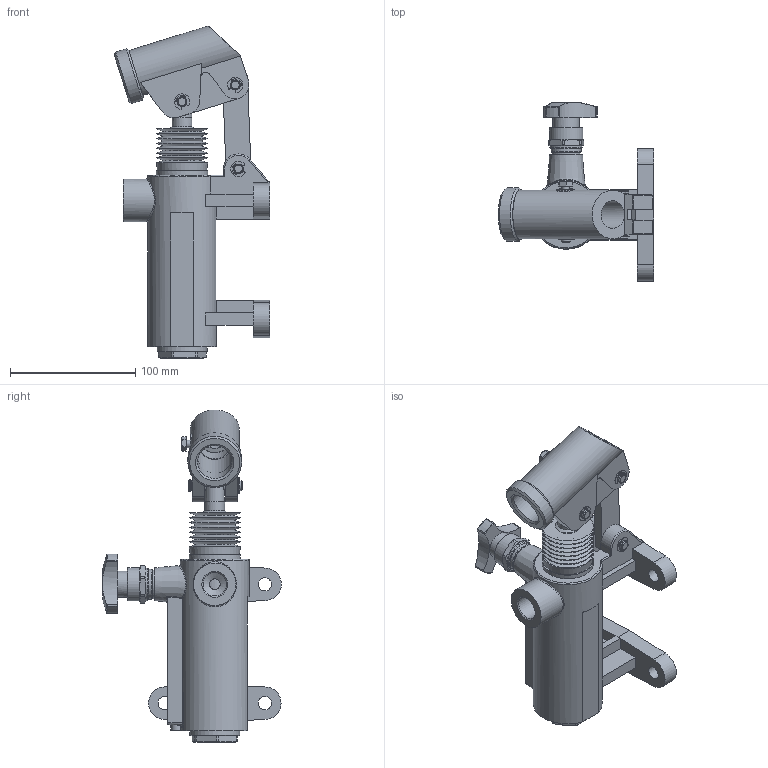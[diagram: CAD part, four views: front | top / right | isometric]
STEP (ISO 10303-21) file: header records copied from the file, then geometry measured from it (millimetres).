
FILE_DESCRIPTION(/* description */ ('Unknown'),/* implementation_level */ '2;1');
FILE_NAME(/* name */ 'HP70S',/* time_stamp */ '2024-11-27T15:08:30+01:00',/* author */ ('Unknown'),/* organization */ ('Unknown'),/* preprocessor_version */ 'ST-DEVELOPER v19.4',/* originating_system */ 'Solid Edge',/* authorisation */ 'Unknown');
FILE_SCHEMA (('FEATURE_BASED_PROCESS_PLANNING','AUTOMOTIVE_DESIGN {1 0 10303 214 3 1 1}'));
Length unit declared in the file: millimetre
Products named in the file (1): HP70S
Bounding box: 124.02 x 142.47 x 264.99 mm (x, y, z)
Volume: 604629 mm3; surface area: 176501 mm2
Topology: 6 solids, 6 shells, 615 faces, 1533 edges, 976 vertices
Faces by surface type: plane 244, cylinder 217, cone 96, torus 33, bspline 22, sphere 3
Full cylindrical faces by diameter (mm): 1.698 x2, 4.912 x1, 4.995 x1, 5.095 x2, 5.994 x6, 7.792 x6, 7.992 x3, 8.092 x7, 8.392 x1, 8.492 x1, 8.591 x1, 8.691 x1, 9.99 x6, 10.589 x4, 10.989 x1, 13.686 x1, 14.486 x1, 14.785 x1, 14.935 x1, 14.985 x1, 15.185 x1, 15.285 x1, 15.784 x2, 15.984 x1, 16.983 x3, 17.782 x1, 17.982 x1, 18.612 x3, 19.98 x1, 20.979 x1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
Entity records: 21937 total; most frequent: CARTESIAN_POINT 5088, DIRECTION 2881, ORIENTED_EDGE 2448, EDGE_CURVE 1224, AXIS2_PLACEMENT_3D 1195, EDGE_LOOP 920, FACE_BOUND 920, VERTEX_POINT 874
